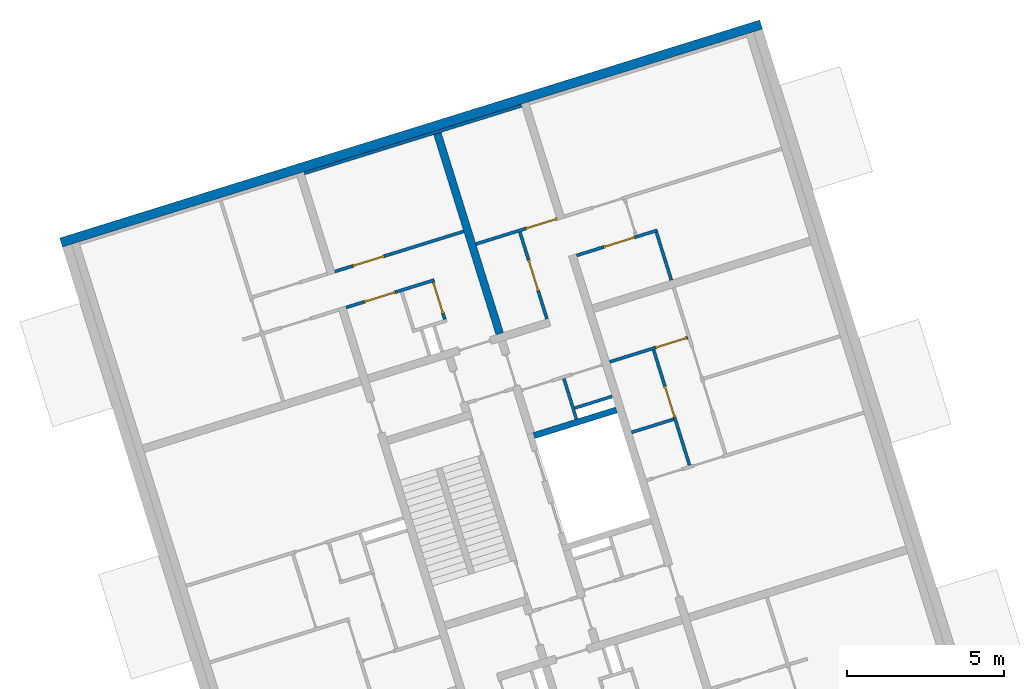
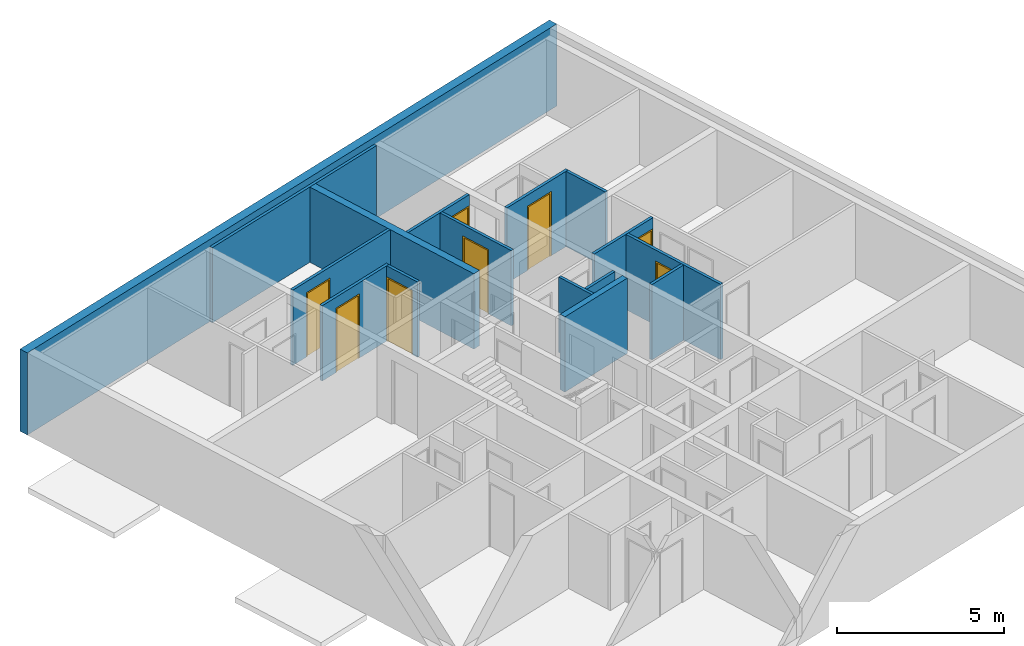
# One storey, part 6 of 9: 16 walls, 8 doors, 9 openings.
"""IFC4 building model written with IfcOpenShell, lengths in metres."""

from ifc_helpers import new_model, entity, si_unit, converted_unit, direction, frame, origin, place, context, subcontext, project, spatial, indexed_curve, outline, extrude, polygons, source, transform, mapped, material, constituent, constituent_set, type_object, type_shapes, element, fill, save


model = new_model("IFC4")

# Units and contexts
model_context = context("Model", 3, precision=1e-05, world=origin(), true_north=direction((6.12323399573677e-17, 1.0)))
body_context = subcontext(model_context, "Body", "Model", "MODEL_VIEW")
ifc_project = project(units=[si_unit("LENGTHUNIT", "METRE"), si_unit("AREAUNIT", "SQUARE_METRE"), converted_unit("PLANEANGLEUNIT", "DEGREE", entity("IfcPlaneAngleMeasure", 0.0174532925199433), si_unit("PLANEANGLEUNIT", "RADIAN"), dimensions=[0, 0, 0, 0, 0, 0, 0]), si_unit("VOLUMEUNIT", "CUBIC_METRE")], contexts=[model_context])

# Site, building, storey
site_placement = place(None, frame((13.1347999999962, 11.9886000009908, 0.0), z_axis=(0.0, 0.0, 1.0), x_axis=(0.954770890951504, 0.297342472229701, 0.0)))
site = spatial("IfcSite", under=ifc_project, at=site_placement, Name="Schiehaven", CompositionType="ELEMENT")
building_placement = place(site_placement, origin())
building = spatial("IfcBuilding", under=site, at=building_placement, Name="VORM huis", CompositionType="ELEMENT")
storey_placement = place(building_placement, frame((0.0, 0.0, 18.9)))
storey = spatial("IfcBuildingStorey", under=building, at=storey_placement, Name="06 zesde verdieping", CompositionType="ELEMENT", Elevation=18.9)

# Walls
ifc_material_1 = material(Name="ntb_ntb_ntb", Category="Miscellaneous")
wall_type_1 = type_object("IfcWallType", Name="Basic Wall:21_WA_gevel_binnenspouwwand 100mm_gen", PredefinedType="STANDARD")
wall_1_placement = place(storey_placement, frame((65.1250000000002, 29.0499999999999, 0.0)))
element("IfcWall", 1, at=wall_1_placement, inside=storey, type_object=wall_type_1, material=ifc_material_1, Name="Binnenspouwblad", ObjectType="Wand", PredefinedType="NOTDEFINED", context=body_context, shape_type="SweptSolid", body=[
    extrude(outline(indexed_curve([(7.24999999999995, 0.0500000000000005), (-1.71284880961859e-16, 0.0500000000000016), (1.71284880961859e-16, -0.0500000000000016), (7.24999999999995, -0.0500000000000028), (7.24999999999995, 0.0500000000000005)], self_intersect=False)), origin(), (0.0, 0.0, 1.0), 2.75),
])
wall_type_2 = type_object("IfcWallType", Name="Basic Wall: 300mm_gen", PredefinedType="STANDARD")
wall_2_placement = place(storey_placement, frame((80.4249999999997, 29.2499999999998, 0.0), z_axis=(0.0, 0.0, 1.0), x_axis=(-1.0, 0.0, 0.0)))
element("IfcWall", 2, at=wall_2_placement, inside=storey, type_object=wall_type_2, material=ifc_material_1, Name="Gevelwand", ObjectType="Wand", PredefinedType="NOTDEFINED", context=body_context, shape_type="SweptSolid", body=[
    extrude(outline(indexed_curve([(23.35, 0.15), (1.7850939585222e-15, 0.150000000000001), (-1.7850939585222e-15, -0.150000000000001), (23.35, -0.150000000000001), (23.35, 0.15)], self_intersect=False)), origin(), (0.0, 0.0, 1.0), 3.0),
])
ifc_material_2 = material(Name="beton_gewapend_prefab-element", Category="Miscellaneous")
wall_type_3 = type_object("IfcWallType", Name="Basic Wall:28_WA_skelet_wand 200mm_gen", PredefinedType="STANDARD")
wall_3_placement = place(storey_placement, frame((69.6249999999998, 18.8999999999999, 0.0)))
element("IfcWall", 3, at=wall_3_placement, inside=storey, type_object=wall_type_3, material=ifc_material_2, Name="Constructieve wand", ObjectType="Wand", PredefinedType="NOTDEFINED", context=body_context, shape_type="SweptSolid", body=[
    extrude(outline(indexed_curve([(2.75000000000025, 0.100000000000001), (-1.53322085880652e-16, 0.100000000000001), (1.53322085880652e-16, -0.100000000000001), (2.75000000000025, -0.100000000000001), (2.75000000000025, 0.100000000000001)], self_intersect=False)), origin(), (0.0, 0.0, 1.0), 2.75),
])
wall_type_4 = type_object("IfcWallType", Name="Basic Wall:22_WA_afbouw_binnenwand 250mm_gen", PredefinedType="STANDARD")
wall_4_placement = place(storey_placement, frame((69.5499999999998, 22.3249999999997, 0.0), z_axis=(0.0, 0.0, 1.0), x_axis=(0.0, 1.0, 0.0)))
element("IfcWall", 4, at=wall_4_placement, inside=storey, type_object=wall_type_4, material=ifc_material_1, Name="Binnenwand", ObjectType="Wand", PredefinedType="NOTDEFINED", context=body_context, shape_type="SweptSolid", body=[
    extrude(outline(indexed_curve([(6.67500000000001, 0.125000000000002), (1.8578365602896e-15, 0.124999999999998), (-1.8578365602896e-15, -0.124999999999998), (6.67500000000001, -0.124999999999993), (6.67500000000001, 0.125000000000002)], self_intersect=False)), origin(), (0.0, 0.0, 1.0), 2.75),
])

# Wall, opening, door
wall_type_5 = type_object("IfcWallType", Name="Basic Wall:22_WA_afbouw_binnenwand 100mm_gen", PredefinedType="STANDARD")
wall_5_placement = place(storey_placement, frame((65.1249999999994, 25.7750000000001, 0.0)))
wall_5 = element("IfcWall", 5, at=wall_5_placement, inside=storey, type_object=wall_type_5, material=ifc_material_1, Name="Binnenwand", ObjectType="Wand", PredefinedType="NOTDEFINED", context=body_context, shape_type="Tessellation", body=[
    polygons([(2.98139225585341e-15, -0.0499999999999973, 2.16573425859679e-15), (0.600000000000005, -0.049999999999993, 2.16573425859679e-15), (0.600000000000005, -0.049999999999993, 2.34999999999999), (1.65000000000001, -0.0499999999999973, 2.34999999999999), (1.65000000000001, -0.0499999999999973, 2.16573425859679e-15), (4.30000000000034, -0.0499999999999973, 2.16573425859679e-15), (4.30000000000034, -0.0499999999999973, 2.75), (2.98139225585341e-15, -0.0499999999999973, 2.75), (0.600000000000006, 0.050000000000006, 2.34999999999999), (0.600000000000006, 0.050000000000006, 2.16573425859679e-15), (4.07058711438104e-15, 0.0500000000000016, 2.16573425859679e-15), (4.07058711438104e-15, 0.0500000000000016, 2.75), (4.30000000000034, 0.0500000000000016, 2.75), (4.30000000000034, 0.0500000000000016, 2.16573425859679e-15), (1.65000000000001, 0.0500000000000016, 2.16573425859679e-15), (1.65000000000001, 0.0500000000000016, 2.34999999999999)], [[[1, 2, 3, 4, 5, 6, 7, 8]], [[9, 10, 11, 12, 13, 14, 15, 16]], [[11, 10, 2, 1]], [[7, 6, 14, 13]], [[8, 7, 13, 12]], [[1, 8, 12, 11]], [[5, 4, 16, 15]], [[3, 2, 10, 9]], [[4, 3, 9, 16]], [[15, 14, 6, 5]]], closed=True),
])
opening_1_placement = place(wall_5_placement, frame((1.65000000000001, 0.0500000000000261, 0.0)))
opening_1 = element("IfcOpeningElement", 6, at=opening_1_placement, cuts=wall_5, Name="Binnendeur", PredefinedType="OPENING", context=body_context, shape_type="SweptSolid", body=[
    extrude(outline(indexed_curve([(2.34999999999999, 3.02234910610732e-29), (2.34999999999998, 1.05), (0.0, 1.05), (2.16573425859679e-15, 3.02234910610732e-29), (2.34999999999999, 3.02234910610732e-29)], self_intersect=False)), frame((0.0, 0.0, 0.0), z_axis=(0.0, -1.0, 0.0), x_axis=(0.0, 0.0, 1.0)), (0.0, 0.0, 1.0), 0.1),
])
ifc_material_3 = material(Name="PD_a_binnenwandopeningen", Category="Miscellaneous")
ifc_constituent_1 = constituent(ifc_material_3, Name="PD_a_binnenwandopeningen", Category="Miscellaneous")
ifc_material_4 = material(Name="metaal_aluminium_ntb", Category="Miscellaneous")
ifc_constituent_2 = constituent(ifc_material_4, Name="metaal_aluminium_ntb", Category="Miscellaneous")
ifc_constituent_set_1 = constituent_set(constituents=[ifc_constituent_1, ifc_constituent_2])
ifc_constituent_3 = constituent(ifc_material_3, Name="PD_a_binnenwandopeningen", Category="Miscellaneous")
ifc_constituent_4 = constituent(ifc_material_4, Name="Panel", Category="Miscellaneous")
ifc_constituent_set_2 = constituent_set(constituents=[ifc_constituent_3, ifc_constituent_4])
door_type = type_object("IfcDoorType", Name="32_DO_binnendeur enkel:binnendeur", OperationType="REVOLVING", PredefinedType="DOOR", material=ifc_constituent_set_2)
shared_shape = source(origin(), body_context, "Body", "SweptSolid", [
    extrude(outline(indexed_curve([(0.475, -1.16249999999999), (0.525, -1.16249999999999), (0.525, 1.18749999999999), (-0.525, 1.18749999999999), (-0.525, -1.16249999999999), (-0.475, -1.16249999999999), (-0.475, 1.13749999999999), (0.475, 1.13749999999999), (0.475, -1.16249999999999)], self_intersect=False)), frame((0.525000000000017, 0.100000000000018, 1.16249999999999), z_axis=(0.0, -1.0, 0.0), x_axis=(1.0, 0.0, 0.0)), (0.0, 0.0, 1.0), 0.1),
    extrude(outline(indexed_curve([(-0.475, -0.025), (0.475, -0.025), (0.475, 0.025), (-0.475, 0.025), (-0.475, -0.025)], self_intersect=False)), frame((0.525000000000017, 0.0499999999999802, 0.0)), (0.0, 0.0, 1.0), 2.29999999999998),
])
type_shapes(door_type, [shared_shape])
door_1_placement = place(opening_1_placement, frame((0.0, 0.0, 0.0), z_axis=(0.0, 0.0, 1.0), x_axis=(-1.0, 0.0, 0.0)))
door_1 = element("IfcDoor", 7, at=door_1_placement, inside=storey, type_object=door_type, material=ifc_constituent_set_1, Name="Binnendeur", ObjectType="Deur", OperationType="REVOLVING", OverallHeight=2.34999999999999, OverallWidth=1.05, PredefinedType="DOOR", context=body_context, shape_type="MappedRepresentation", body=[
    mapped(shared_shape, transform((0.0, 0.0, 0.0), scale=1.0)),
])
fill(opening_1, door_1)

# Wall, openings, door
wall_6_placement = place(storey_placement, frame((65.1249999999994, 24.5750000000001, 0.0)))
wall_6 = element("IfcWall", 8, at=wall_6_placement, inside=storey, type_object=wall_type_5, material=ifc_material_1, Name="Binnenwand", ObjectType="Wand", PredefinedType="NOTDEFINED", context=body_context, shape_type="Tessellation", body=[
    polygons([(1.65, -0.0499999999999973, 2.34999999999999), (1.65, -0.0499999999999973, 2.16573425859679e-15), (1.79100000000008, -0.049999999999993, 2.16573425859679e-15), (1.89100000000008, -0.0499999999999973, 2.16573425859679e-15), (2.94100000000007, -0.0499999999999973, 2.16573425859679e-15), (2.94100000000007, -0.0499999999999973, 2.34999999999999), (2.94100000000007, -0.0499999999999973, 2.75), (2.84100000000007, -0.0499999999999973, 2.75), (1.89100000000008, -0.0499999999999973, 2.75), (1.79100000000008, -0.049999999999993, 2.75), (-1.42600901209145e-15, -0.0499999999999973, 2.75), (-1.42600901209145e-15, -0.0499999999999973, 2.16573425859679e-15), (0.600000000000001, -0.049999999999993, 2.16573425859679e-15), (0.600000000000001, -0.049999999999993, 2.34999999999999), (2.94100000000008, 0.0500000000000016, 2.16573425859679e-15), (1.65000000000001, 0.0500000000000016, 2.16573425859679e-15), (1.65000000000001, 0.0500000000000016, 2.34999999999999), (0.600000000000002, 0.050000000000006, 2.34999999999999), (0.600000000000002, 0.050000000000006, 2.16573425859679e-15), (-3.36814153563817e-16, 0.0500000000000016, 2.16573425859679e-15), (-3.36814153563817e-16, 0.0500000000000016, 2.75), (2.94100000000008, 0.0500000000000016, 2.75)], [[[1, 2, 3, 4, 5, 6, 7, 8, 9, 10, 11, 12, 13, 14]], [[15, 16, 17, 18, 19, 20, 21, 22]], [[13, 12, 20, 19]], [[11, 10, 9, 8, 7, 22, 21]], [[12, 11, 21, 20]], [[19, 18, 14, 13]], [[17, 16, 2, 1]], [[18, 17, 1, 14]], [[7, 6, 5, 15, 22]], [[5, 4, 3, 2, 16, 15]]], closed=True),
])
opening_2_placement = place(wall_6_placement, origin())
element("IfcOpeningElement", 9, at=opening_2_placement, cuts=wall_6, Name="Binnendeur", PredefinedType="OPENING", context=body_context, shape_type="SweptSolid", body=[
    extrude(outline(indexed_curve([(-0.0499999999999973, -1.17499999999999), (0.050000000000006, -1.17499999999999), (0.050000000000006, 1.17499999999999), (-0.0499999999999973, 1.17499999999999), (-0.0499999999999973, -1.17499999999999)], self_intersect=False)), frame((2.89100000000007, -1.1, 1.17499999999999), z_axis=(0.0, 1.0, 0.0), x_axis=(1.0, 0.0, 0.0)), (0.0, 0.0, 1.0), 1.05),
])
opening_3_placement = place(wall_6_placement, frame((0.600000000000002, -0.0499999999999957, 0.0)))
opening_3 = element("IfcOpeningElement", 10, at=opening_3_placement, cuts=wall_6, Name="Binnendeur", PredefinedType="OPENING", context=body_context, shape_type="SweptSolid", body=[
    extrude(outline(indexed_curve([(2.34999999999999, 3.02234910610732e-29), (2.34999999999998, 1.05), (0.0, 1.05), (2.16573425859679e-15, 3.02234910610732e-29), (2.34999999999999, 3.02234910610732e-29)], self_intersect=False)), frame((0.0, 0.0, 0.0), z_axis=(0.0, 1.0, 0.0), x_axis=(0.0, 0.0, 1.0)), (0.0, 0.0, 1.0), 0.1),
])
ifc_constituent_5 = constituent(ifc_material_3, Name="PD_a_binnenwandopeningen", Category="Miscellaneous")
ifc_constituent_6 = constituent(ifc_material_4, Name="metaal_aluminium_ntb", Category="Miscellaneous")
ifc_constituent_set_3 = constituent_set(constituents=[ifc_constituent_5, ifc_constituent_6])
door_2_placement = place(opening_3_placement, origin())
door_2 = element("IfcDoor", 11, at=door_2_placement, inside=storey, type_object=door_type, material=ifc_constituent_set_3, Name="Binnendeur", ObjectType="Deur", OperationType="REVOLVING", OverallHeight=2.34999999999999, OverallWidth=1.05, PredefinedType="DOOR", context=body_context, shape_type="MappedRepresentation", body=[
    mapped(shared_shape, transform((0.0, 0.0, 0.0), scale=1.0)),
])
fill(opening_3, door_2)

# Wall, opening, door
wall_7_placement = place(storey_placement, frame((68.0159999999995, 24.5250000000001, 0.0), z_axis=(0.0, 0.0, 1.0), x_axis=(0.0, -1.0, 0.0)))
wall_7 = element("IfcWall", 12, at=wall_7_placement, inside=storey, type_object=wall_type_5, material=ifc_material_1, Name="Binnenwand", ObjectType="Wand", PredefinedType="NOTDEFINED", context=body_context, shape_type="Tessellation", body=[
    polygons([(1.24999999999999, -0.0500000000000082, 2.75), (-4.33146851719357e-15, -0.0500000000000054, 2.75), (-4.33146851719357e-15, -0.0500000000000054, 2.34999999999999), (1.05, -0.0500000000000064, 2.34999999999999), (1.05, -0.0500000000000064, 2.16573425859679e-15), (1.24999999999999, -0.0500000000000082, 2.16573425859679e-15), (0.0, 0.0499999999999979, 2.75), (1.24999999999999, 0.049999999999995, 2.75), (1.24999999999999, 0.049999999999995, 2.16573425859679e-15), (1.05, 0.0499999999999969, 2.16573425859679e-15), (1.05, 0.0499999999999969, 2.34999999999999), (0.0, 0.0499999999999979, 2.34999999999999)], [[[1, 2, 3, 4, 5, 6]], [[7, 8, 9, 10, 11, 12]], [[9, 6, 5, 10]], [[2, 1, 8, 7]], [[4, 11, 10, 5]], [[11, 4, 3, 12]], [[1, 6, 9, 8]], [[2, 7, 12, 3]]], closed=True),
])
opening_4_placement = place(wall_7_placement, frame((0.0, -0.050000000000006, 0.0)))
opening_4 = element("IfcOpeningElement", 13, at=opening_4_placement, cuts=wall_7, Name="Binnendeur", PredefinedType="OPENING", context=body_context, shape_type="SweptSolid", body=[
    extrude(outline(indexed_curve([(2.34999999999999, -9.61779215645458e-31), (2.34999999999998, 1.05), (0.0, 1.05), (2.16573425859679e-15, -9.61779215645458e-31), (2.34999999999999, -9.61779215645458e-31)], self_intersect=False)), frame((0.0, 0.0, 0.0), z_axis=(0.0, 1.0, 0.0), x_axis=(0.0, 0.0, 1.0)), (0.0, 0.0, 1.0), 0.1),
])
ifc_constituent_7 = constituent(ifc_material_3, Name="PD_a_binnenwandopeningen", Category="Miscellaneous")
ifc_constituent_8 = constituent(ifc_material_4, Name="metaal_aluminium_ntb", Category="Miscellaneous")
ifc_constituent_set_4 = constituent_set(constituents=[ifc_constituent_7, ifc_constituent_8])
door_3_placement = place(opening_4_placement, origin())
door_3 = element("IfcDoor", 14, at=door_3_placement, inside=storey, type_object=door_type, material=ifc_constituent_set_4, Name="Binnendeur", ObjectType="Deur", OperationType="REVOLVING", OverallHeight=2.34999999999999, OverallWidth=1.05, PredefinedType="DOOR", context=body_context, shape_type="MappedRepresentation", body=[
    mapped(shared_shape, transform((0.0, 0.0, 0.0), scale=1.0)),
])
fill(opening_4, door_3)

wall_8_placement = place(storey_placement, frame((75.3249999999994, 23.9750000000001, 0.0), z_axis=(0.0, 0.0, 1.0), x_axis=(-1.0, 0.0, 0.0)))
wall_8 = element("IfcWall", 15, at=wall_8_placement, inside=storey, type_object=wall_type_5, material=ifc_material_1, Name="Binnenwand", ObjectType="Wand", PredefinedType="NOTDEFINED", context=body_context, shape_type="Tessellation", body=[
    polygons([(3.61017714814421e-15, -0.0499999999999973, 2.16573425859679e-15), (0.650000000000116, -0.0499999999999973, 2.16573425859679e-15), (0.750000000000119, -0.0499999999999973, 2.16573425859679e-15), (0.750000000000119, -0.0499999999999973, 2.34999999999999), (1.80000000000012, -0.0500000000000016, 2.34999999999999), (1.80000000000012, -0.0500000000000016, 2.16573425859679e-15), (2.69999999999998, -0.0500000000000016, 2.16573425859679e-15), (2.69999999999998, -0.0500000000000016, 2.75), (0.750000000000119, -0.0499999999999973, 2.75), (0.650000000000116, -0.0499999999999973, 2.75), (3.61017714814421e-15, -0.0499999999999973, 2.75), (0.750000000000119, 0.0500000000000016, 2.34999999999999), (0.750000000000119, 0.0500000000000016, 2.16573425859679e-15), (0.100000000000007, 0.0500000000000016, 2.16573425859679e-15), (3.48697636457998e-15, 0.0500000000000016, 2.16573425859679e-15), (3.48697636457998e-15, 0.0500000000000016, 2.75), (0.100000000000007, 0.0500000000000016, 2.75), (2.69999999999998, 0.0499999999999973, 2.75), (2.69999999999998, 0.0499999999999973, 2.16573425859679e-15), (1.80000000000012, 0.0499999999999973, 2.16573425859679e-15), (1.80000000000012, 0.0499999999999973, 2.34999999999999)], [[[1, 2, 3, 4, 5, 6, 7, 8, 9, 10, 11]], [[12, 13, 14, 15, 16, 17, 18, 19, 20, 21]], [[15, 14, 13, 3, 2, 1]], [[8, 7, 19, 18]], [[11, 10, 9, 8, 18, 17, 16]], [[6, 5, 21, 20]], [[4, 3, 13, 12]], [[5, 4, 12, 21]], [[1, 11, 16, 15]], [[20, 19, 7, 6]]], closed=True),
])
opening_5_placement = place(wall_8_placement, frame((1.80000000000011, 0.0499999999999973, 0.0)))
opening_5 = element("IfcOpeningElement", 16, at=opening_5_placement, cuts=wall_8, Name="Binnendeur", PredefinedType="OPENING", context=body_context, shape_type="SweptSolid", body=[
    extrude(outline(indexed_curve([(2.34999999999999, 0.0), (2.34999999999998, 1.05), (0.0, 1.05), (2.16573425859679e-15, 0.0), (2.34999999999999, 0.0)], self_intersect=False)), frame((0.0, 0.0, 0.0), z_axis=(0.0, -1.0, 0.0), x_axis=(0.0, 0.0, 1.0)), (0.0, 0.0, 1.0), 0.1),
])
ifc_constituent_9 = constituent(ifc_material_3, Name="PD_a_binnenwandopeningen", Category="Miscellaneous")
ifc_constituent_10 = constituent(ifc_material_4, Name="metaal_aluminium_ntb", Category="Miscellaneous")
ifc_constituent_set_5 = constituent_set(constituents=[ifc_constituent_9, ifc_constituent_10])
door_4_placement = place(opening_5_placement, frame((0.0, 0.0, 0.0), z_axis=(0.0, 0.0, 1.0), x_axis=(-1.0, 0.0, 0.0)))
door_4 = element("IfcDoor", 17, at=door_4_placement, inside=storey, type_object=door_type, material=ifc_constituent_set_5, Name="Binnendeur", ObjectType="Deur", OperationType="REVOLVING", OverallHeight=2.34999999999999, OverallWidth=1.05, PredefinedType="DOOR", context=body_context, shape_type="MappedRepresentation", body=[
    mapped(shared_shape, transform((0.0, 0.0, 0.0), scale=1.0)),
])
fill(opening_5, door_4)

# Wall
wall_9_placement = place(storey_placement, frame((75.2749999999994, 23.9250000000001, 0.0), z_axis=(0.0, 0.0, 1.0), x_axis=(0.0, -1.0, 0.0)))
element("IfcWall", 18, at=wall_9_placement, inside=storey, type_object=wall_type_5, material=ifc_material_1, Name="Binnenwand", ObjectType="Wand", PredefinedType="NOTDEFINED", context=body_context, shape_type="SweptSolid", body=[
    extrude(outline(indexed_curve([(1.6000000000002, 0.0499999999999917), (-9.45814329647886e-17, 0.0499999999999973), (9.45814329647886e-17, -0.0499999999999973), (1.6000000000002, -0.0500000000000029), (1.6000000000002, 0.0499999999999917)], self_intersect=False)), origin(), (0.0, 0.0, 1.0), 2.75),
])

# Wall, opening, door
wall_10_placement = place(storey_placement, frame((69.6749999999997, 25.2750000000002, 0.0)))
wall_10 = element("IfcWall", 19, at=wall_10_placement, inside=storey, type_object=wall_type_5, material=ifc_material_1, Name="Binnenwand", ObjectType="Wand", PredefinedType="NOTDEFINED", context=body_context, shape_type="Tessellation", body=[
    polygons([(2.69999999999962, -0.0499999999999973, 2.75), (1.49999999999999, -0.0499999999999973, 2.75), (1.39999999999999, -0.0499999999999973, 2.75), (-3.65176134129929e-15, -0.0499999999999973, 2.75), (-3.65176134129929e-15, -0.0499999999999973, 2.16573425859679e-15), (1.39999999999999, -0.0499999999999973, 2.16573425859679e-15), (1.49999999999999, -0.0499999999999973, 2.16573425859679e-15), (1.64999999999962, -0.0499999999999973, 2.16573425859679e-15), (1.64999999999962, -0.0499999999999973, 2.34999999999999), (2.69999999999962, -0.0499999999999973, 2.34999999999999), (-3.70058076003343e-15, 0.0500000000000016, 2.75), (2.69999999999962, 0.0500000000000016, 2.75), (2.69999999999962, 0.0500000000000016, 2.34999999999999), (1.64999999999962, 0.0500000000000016, 2.34999999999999), (1.64999999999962, 0.0500000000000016, 2.16573425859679e-15), (-3.70058076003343e-15, 0.0500000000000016, 2.16573425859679e-15)], [[[1, 2, 3, 4, 5, 6, 7, 8, 9, 10]], [[11, 12, 13, 14, 15, 16]], [[5, 16, 15, 8, 7, 6]], [[12, 1, 10, 13]], [[4, 3, 2, 1, 12, 11]], [[5, 4, 11, 16]], [[14, 9, 8, 15]], [[9, 14, 13, 10]]], closed=True),
])
opening_6_placement = place(wall_10_placement, frame((2.69999999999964, 0.0500000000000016, 0.0)))
opening_6 = element("IfcOpeningElement", 20, at=opening_6_placement, cuts=wall_10, Name="Binnendeur", PredefinedType="OPENING", context=body_context, shape_type="SweptSolid", body=[
    extrude(outline(indexed_curve([(2.34999999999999, 0.0), (2.34999999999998, 1.05), (0.0, 1.05), (2.16573425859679e-15, 0.0), (2.34999999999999, 0.0)], self_intersect=False)), frame((0.0, 0.0, 0.0), z_axis=(0.0, -1.0, 0.0), x_axis=(0.0, 0.0, 1.0)), (0.0, 0.0, 1.0), 0.1),
])
ifc_constituent_11 = constituent(ifc_material_3, Name="PD_a_binnenwandopeningen", Category="Miscellaneous")
ifc_constituent_12 = constituent(ifc_material_4, Name="metaal_aluminium_ntb", Category="Miscellaneous")
ifc_constituent_set_6 = constituent_set(constituents=[ifc_constituent_11, ifc_constituent_12])
door_5_placement = place(opening_6_placement, frame((0.0, 0.0, 0.0), z_axis=(0.0, 0.0, 1.0), x_axis=(-1.0, 0.0, 0.0)))
door_5 = element("IfcDoor", 21, at=door_5_placement, inside=storey, type_object=door_type, material=ifc_constituent_set_6, Name="Binnendeur", ObjectType="Deur", OperationType="REVOLVING", OverallHeight=2.34999999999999, OverallWidth=1.05, PredefinedType="DOOR", context=body_context, shape_type="MappedRepresentation", body=[
    mapped(shared_shape, transform((0.0, 0.0, 0.0), scale=1.0)),
])
fill(opening_6, door_5)

# Walls
wall_11_placement = place(storey_placement, frame((71.0749999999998, 19.0, 0.0), z_axis=(0.0, 0.0, 1.0), x_axis=(0.0, 1.0, 0.0)))
element("IfcWall", 22, at=wall_11_placement, inside=storey, type_object=wall_type_5, material=ifc_material_1, Name="Binnenwand", ObjectType="Wand", PredefinedType="NOTDEFINED", context=body_context, shape_type="SweptSolid", body=[
    extrude(outline(indexed_curve([(1.34999999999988, 0.0500000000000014), (-1.5153854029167e-16, 0.0499999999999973), (1.5153854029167e-16, -0.0499999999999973), (1.34999999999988, -0.0499999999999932), (1.34999999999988, 0.0500000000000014)], self_intersect=False)), origin(), (0.0, 0.0, 1.0), 2.75000000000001),
])
wall_12_placement = place(storey_placement, frame((72.3749999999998, 19.3499999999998, 0.0), z_axis=(0.0, 0.0, 1.0), x_axis=(-1.0, 0.0, 0.0)))
element("IfcWall", 23, at=wall_12_placement, inside=storey, type_object=wall_type_5, material=ifc_material_1, Name="Binnenwand", ObjectType="Wand", PredefinedType="NOTDEFINED", context=body_context, shape_type="SweptSolid", body=[
    extrude(outline(indexed_curve([(1.24999999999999, 0.050000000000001), (-1.10091953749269e-15, 0.0499999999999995), (1.10091953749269e-15, -0.0499999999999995), (1.24999999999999, -0.0499999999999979), (1.24999999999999, 0.050000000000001)], self_intersect=False)), origin(), (0.0, 0.0, 1.0), 2.75),
])

# Wall, opening, door
wall_13_placement = place(storey_placement, frame((71.1249999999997, 22.3249999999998, 0.0), z_axis=(0.0, 0.0, 1.0), x_axis=(0.0, 1.0, 0.0)))
wall_13 = element("IfcWall", 24, at=wall_13_placement, inside=storey, type_object=wall_type_5, material=ifc_material_1, Name="Binnenwand", ObjectType="Wand", PredefinedType="NOTDEFINED", context=body_context, shape_type="Tessellation", body=[
    polygons([(0.0, -0.0499999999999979, 2.16573425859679e-15), (0.925000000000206, -0.050000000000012, 2.16573425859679e-15), (0.925000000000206, -0.050000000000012, 2.34999999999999), (1.97500000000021, -0.0500000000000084, 2.34999999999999), (1.97500000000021, -0.0500000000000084, 2.16573425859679e-15), (2.90000000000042, -0.0500000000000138, 2.16573425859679e-15), (2.90000000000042, -0.0500000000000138, 2.75000000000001), (0.0, -0.0499999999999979, 2.75000000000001), (0.925000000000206, 0.0499999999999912, 2.34999999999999), (0.925000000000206, 0.0499999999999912, 2.16573425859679e-15), (0.0, 0.0499999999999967, 2.16573425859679e-15), (0.0, 0.0499999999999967, 2.75000000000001), (2.90000000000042, 0.0499999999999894, 2.75000000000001), (2.90000000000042, 0.0499999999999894, 2.16573425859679e-15), (1.97500000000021, 0.0499999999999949, 2.16573425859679e-15), (1.97500000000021, 0.0499999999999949, 2.34999999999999)], [[[1, 2, 3, 4, 5, 6, 7, 8]], [[9, 10, 11, 12, 13, 14, 15, 16]], [[11, 10, 2, 1]], [[8, 7, 13, 12]], [[1, 8, 12, 11]], [[5, 4, 16, 15]], [[3, 2, 10, 9]], [[4, 3, 9, 16]], [[7, 6, 14, 13]], [[15, 14, 6, 5]]], closed=True),
])
opening_7_placement = place(wall_13_placement, frame((1.97500000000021, 0.04999999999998, 0.0)))
opening_7 = element("IfcOpeningElement", 25, at=opening_7_placement, cuts=wall_13, Name="Binnendeur", PredefinedType="OPENING", context=body_context, shape_type="SweptSolid", body=[
    extrude(outline(indexed_curve([(2.34999999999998, 0.0), (2.34999999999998, 1.05), (0.0, 1.05), (0.0, 0.0), (2.34999999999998, 0.0)], self_intersect=False)), frame((0.0, 0.0, 0.0), z_axis=(0.0, -1.0, 0.0), x_axis=(0.0, 0.0, 1.0)), (0.0, 0.0, 1.0), 0.1),
])
ifc_constituent_13 = constituent(ifc_material_3, Name="PD_a_binnenwandopeningen", Category="Miscellaneous")
ifc_constituent_14 = constituent(ifc_material_4, Name="metaal_aluminium_ntb", Category="Miscellaneous")
ifc_constituent_set_7 = constituent_set(constituents=[ifc_constituent_13, ifc_constituent_14])
door_6_placement = place(opening_7_placement, frame((0.0, 0.0, 0.0), z_axis=(0.0, 0.0, 1.0), x_axis=(-1.0, 0.0, 0.0)))
door_6 = element("IfcDoor", 26, at=door_6_placement, inside=storey, type_object=door_type, material=ifc_constituent_set_7, Name="Binnendeur", ObjectType="Deur", OperationType="REVOLVING", OverallHeight=2.34999999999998, OverallWidth=1.05, PredefinedType="DOOR", context=body_context, shape_type="MappedRepresentation", body=[
    mapped(shared_shape, transform((0.0, 0.0, 0.0), scale=1.0)),
])
fill(opening_7, door_6)

wall_14_placement = place(storey_placement, frame((75.2249999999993, 20.4249999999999, 0.0), z_axis=(0.0, 0.0, 1.0), x_axis=(-1.0, 0.0, 0.0)))
wall_14 = element("IfcWall", 27, at=wall_14_placement, inside=storey, type_object=wall_type_5, material=ifc_material_1, Name="Binnenwand", ObjectType="Wand", PredefinedType="NOTDEFINED", context=body_context, shape_type="Tessellation", body=[
    polygons([(1.07500000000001, -0.0499999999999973, 2.34999999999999), (1.07500000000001, -0.0499999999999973, 2.16573425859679e-15), (2.59999999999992, -0.0499999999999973, 2.16573425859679e-15), (2.59999999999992, -0.0499999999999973, 2.75), (2.8035561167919e-15, -0.0499999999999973, 2.75), (2.8035561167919e-15, -0.0499999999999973, 2.16573425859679e-15), (0.0250000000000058, -0.0499999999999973, 2.16573425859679e-15), (0.0250000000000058, -0.0499999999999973, 2.34999999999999), (2.59999999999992, 0.0500000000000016, 2.16573425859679e-15), (1.20000000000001, 0.0500000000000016, 2.16573425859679e-15), (1.1, 0.0500000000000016, 2.16573425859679e-15), (1.07500000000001, 0.0500000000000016, 2.16573425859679e-15), (1.07500000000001, 0.0500000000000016, 2.34999999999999), (0.0250000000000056, 0.0500000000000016, 2.34999999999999), (0.0250000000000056, 0.0500000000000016, 2.16573425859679e-15), (2.57831440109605e-15, 0.0500000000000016, 2.16573425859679e-15), (2.57831440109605e-15, 0.0500000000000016, 2.75), (1.1, 0.0500000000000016, 2.75), (1.20000000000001, 0.0500000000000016, 2.75), (2.59999999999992, 0.0500000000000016, 2.75)], [[[1, 2, 3, 4, 5, 6, 7, 8]], [[9, 10, 11, 12, 13, 14, 15, 16, 17, 18, 19, 20]], [[7, 6, 16, 15]], [[4, 3, 9, 20]], [[5, 4, 20, 19, 18, 17]], [[6, 5, 17, 16]], [[15, 14, 8, 7]], [[13, 12, 2, 1]], [[14, 13, 1, 8]], [[3, 2, 12, 11, 10, 9]]], closed=True),
])
opening_8_placement = place(wall_14_placement, frame((0.025000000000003, -0.0500000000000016, 0.0)))
opening_8 = element("IfcOpeningElement", 28, at=opening_8_placement, cuts=wall_14, Name="Binnendeur", PredefinedType="OPENING", context=body_context, shape_type="SweptSolid", body=[
    extrude(outline(indexed_curve([(2.34999999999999, -1.90552226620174e-32), (2.34999999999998, 1.05), (0.0, 1.05), (2.16573425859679e-15, -1.90552226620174e-32), (2.34999999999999, -1.90552226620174e-32)], self_intersect=False)), frame((0.0, 0.0, 0.0), z_axis=(0.0, 1.0, 0.0), x_axis=(0.0, 0.0, 1.0)), (0.0, 0.0, 1.0), 0.1),
])
ifc_constituent_15 = constituent(ifc_material_3, Name="PD_a_binnenwandopeningen", Category="Miscellaneous")
ifc_constituent_16 = constituent(ifc_material_4, Name="metaal_aluminium_ntb", Category="Miscellaneous")
ifc_constituent_set_8 = constituent_set(constituents=[ifc_constituent_15, ifc_constituent_16])
door_7_placement = place(opening_8_placement, origin())
door_7 = element("IfcDoor", 29, at=door_7_placement, inside=storey, type_object=door_type, material=ifc_constituent_set_8, Name="Binnendeur", ObjectType="Deur", OperationType="REVOLVING", OverallHeight=2.34999999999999, OverallWidth=1.05, PredefinedType="DOOR", context=body_context, shape_type="MappedRepresentation", body=[
    mapped(shared_shape, transform((0.0, 0.0, 0.0), scale=1.0)),
])
fill(opening_8, door_7)

wall_15_placement = place(storey_placement, frame((74.0749999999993, 20.375, 0.0), z_axis=(0.0, 0.0, 1.0), x_axis=(0.0, -1.0, 0.0)))
wall_15 = element("IfcWall", 30, at=wall_15_placement, inside=storey, type_object=wall_type_5, material=ifc_material_1, Name="Binnenwand", ObjectType="Wand", PredefinedType="NOTDEFINED", context=body_context, shape_type="Tessellation", body=[
    polygons([(2.25000000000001, -0.0500000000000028, 2.34999999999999), (2.25000000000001, -0.0500000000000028, 2.16573425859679e-15), (2.35000000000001, -0.0500000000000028, 2.16573425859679e-15), (3.85000000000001, -0.0500000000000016, 2.16573425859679e-15), (3.85000000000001, -0.0500000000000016, 2.75), (2.35000000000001, -0.0500000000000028, 2.75), (2.25000000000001, -0.0500000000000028, 2.75), (0.0, -0.0500000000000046, 2.75), (0.0, -0.0500000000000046, 2.16573425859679e-15), (1.20000000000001, -0.0500000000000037, 2.16573425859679e-15), (1.20000000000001, -0.0500000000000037, 2.34999999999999), (3.85000000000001, 0.0500000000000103, 2.16573425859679e-15), (2.25000000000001, 0.0500000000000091, 2.16573425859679e-15), (2.25000000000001, 0.0500000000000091, 2.34999999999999), (1.20000000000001, 0.0500000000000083, 2.34999999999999), (1.20000000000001, 0.0500000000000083, 2.16573425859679e-15), (0.0, 0.0500000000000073, 2.16573425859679e-15), (4.33146851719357e-15, 0.0500000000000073, 2.75), (3.85000000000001, 0.0500000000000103, 2.75)], [[[1, 2, 3, 4, 5, 6, 7, 8, 9, 10, 11]], [[12, 13, 14, 15, 16, 17, 18, 19]], [[10, 9, 17, 16]], [[8, 7, 6, 5, 19, 18]], [[9, 8, 18, 17]], [[5, 4, 12, 19]], [[16, 15, 11, 10]], [[14, 13, 2, 1]], [[15, 14, 1, 11]], [[4, 3, 2, 13, 12]]], closed=True),
])
opening_9_placement = place(wall_15_placement, frame((1.20000000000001, -0.0499999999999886, 0.0)))
opening_9 = element("IfcOpeningElement", 31, at=opening_9_placement, cuts=wall_15, Name="Binnendeur", PredefinedType="OPENING", context=body_context, shape_type="SweptSolid", body=[
    extrude(outline(indexed_curve([(2.34999999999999, 1.35358391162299e-15), (2.34999999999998, 1.05), (0.0, 1.05), (2.16573425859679e-15, 1.35358391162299e-15), (2.34999999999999, 1.35358391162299e-15)], self_intersect=False)), frame((0.0, 0.0, 0.0), z_axis=(0.0, 1.0, 0.0), x_axis=(0.0, 0.0, 1.0)), (0.0, 0.0, 1.0), 0.1),
])
ifc_constituent_17 = constituent(ifc_material_3, Name="PD_a_binnenwandopeningen", Category="Miscellaneous")
ifc_constituent_18 = constituent(ifc_material_4, Name="metaal_aluminium_ntb", Category="Miscellaneous")
ifc_constituent_set_9 = constituent_set(constituents=[ifc_constituent_17, ifc_constituent_18])
door_8_placement = place(opening_9_placement, origin())
door_8 = element("IfcDoor", 32, at=door_8_placement, inside=storey, type_object=door_type, material=ifc_constituent_set_9, Name="Binnendeur", ObjectType="Deur", OperationType="REVOLVING", OverallHeight=2.34999999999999, OverallWidth=1.05, PredefinedType="DOOR", context=body_context, shape_type="MappedRepresentation", body=[
    mapped(shared_shape, transform((0.0, 0.0, 0.0), scale=1.0)),
])
fill(opening_9, door_8)

# Wall
wall_16_placement = place(storey_placement, frame((72.6228357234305, 18.0749999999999, 0.0)))
element("IfcWall", 33, at=wall_16_placement, inside=storey, type_object=wall_type_5, material=ifc_material_1, Name="Binnenwand", ObjectType="Wand", PredefinedType="NOTDEFINED", context=body_context, shape_type="SweptSolid", body=[
    extrude(outline(indexed_curve([(1.40216427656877, 0.0499999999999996), (1.4909356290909e-16, 0.0499999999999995), (-1.4909356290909e-16, -0.0499999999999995), (1.40216427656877, -0.0499999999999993), (1.40216427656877, 0.0499999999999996)], self_intersect=False)), origin(), (0.0, 0.0, 1.0), 2.75),
])

save(model, "model.ifc")
